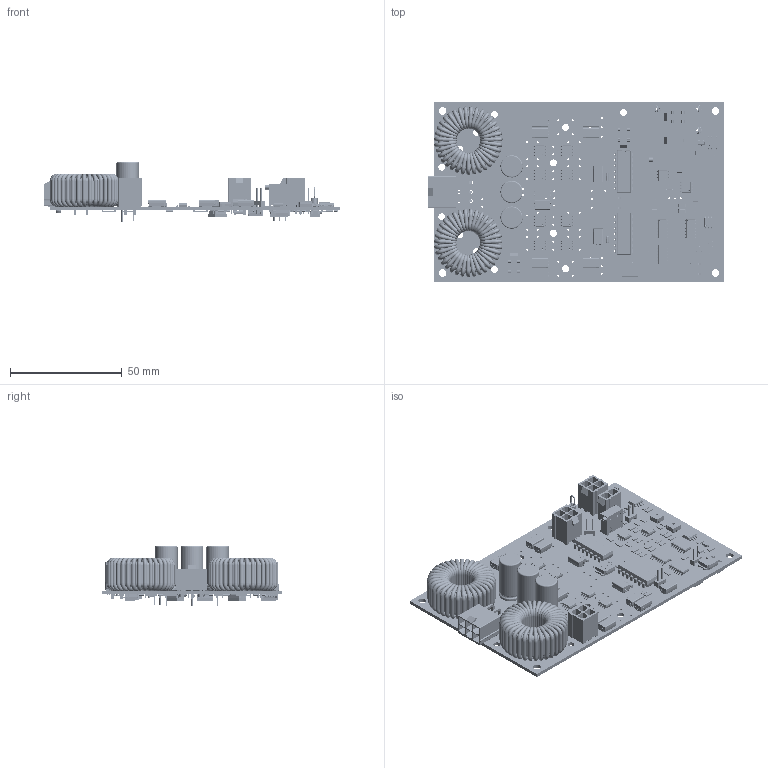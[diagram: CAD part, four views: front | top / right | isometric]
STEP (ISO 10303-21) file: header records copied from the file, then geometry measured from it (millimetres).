
FILE_DESCRIPTION(('Open CASCADE Model'),'2;1');
FILE_NAME('Open CASCADE Shape Model','2017-01-13T18:48:40',('Author'),( 'Open CASCADE'),'Open CASCADE STEP processor 6.8','Open CASCADE 6.8' ,'Unknown');
FILE_SCHEMA(('AUTOMOTIVE_DESIGN { 1 0 10303 214 1 1 1 1 }'));
Length unit declared in the file: millimetre
Products named in the file (182): PCB; Board; X1; MF-4MA; Open CASCADE STEP translator 6.8 3.2.1.1; Open CASCADE STEP translator 6.8 3.2.1.2; C38.1; User_Library-CAPC3216X___; C38.2; C38.4; C9; C26; C25; R34; User_Library-RESC3216X06N; C28; D6; User_Library-minimelf; C36; TP3; User_Library-TEST_POINT_BLK_Keystone_5011; R25; R26; C11; C18; R31; R10; R8; C13; D4; User_Library-FYLS-1206; R23; R21; C38.3; R33; D5; C35; R37; R39; C27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
Assembly tree (316 placements, depth 4):
  PCB
    Board
    X1
      MF-4MA
        Open CASCADE STEP translator 6.8 3.2.1.1
        Open CASCADE STEP translator 6.8 3.2.1.2
    C38.1
      User_Library-CAPC3216X___
    C38.2
      User_Library-CAPC3216X___
    C38.4
      User_Library-CAPC3216X___
    C9
      User_Library-CAPC3216X___
    C26
      User_Library-CAPC3216X___
    C25
      User_Library-CAPC3216X___
    R34
      User_Library-RESC3216X06N
    C28
      User_Library-CAPC3216X___
    D6
      User_Library-minimelf
    C36
      User_Library-CAPC3216X___
    TP3
      User_Library-TEST_POINT_BLK_Keystone_5011
    R25
      User_Library-RESC3216X06N
    R26
      User_Library-RESC3216X06N
    C11
      User_Library-CAPC3216X___
    C18
      User_Library-CAPC3216X___
    R31
      User_Library-RESC3216X06N
    R10
      User_Library-RESC3216X06N
    R8
      User_Library-RESC3216X06N
    C13
      User_Library-CAPC3216X___
    D4
      User_Library-FYLS-1206
    R23
      User_Library-RESC3216X06N
    R21
      User_Library-RESC3216X06N
    C38.3
      User_Library-CAPC3216X___
    R33
      User_Library-RESC3216X06N
    D5
      User_Library-minimelf
    C35
      User_Library-CAPC3216X___
    R37
      User_Library-RESC3216X06N
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Bounding box: 132.44 x 80.21 x 26.72 mm (x, y, z)
Volume: 43783.1 mm3; surface area: 57308.1 mm2
Topology: 306 solids, 306 shells, 23819 faces, 60927 edges, 37481 vertices
Faces by surface type: plane 10510, bspline 6682, cylinder 5299, torus 1120, sphere 186, cone 22
Full cylindrical faces by diameter (mm): 0.9 x118, 1.2 x3, 1.4 x6, 1.6 x20, 3 x3, 3.1 x12, 3.45 x4
Entity records: 418831 total; most frequent: CARTESIAN_POINT 237390, DIRECTION 26717, ORIENTED_EDGE 18276, PCURVE 18276, DEFINITIONAL_REPRESENTATION 18276, LINE 14794, VECTOR 14794, EDGE_CURVE 9138
